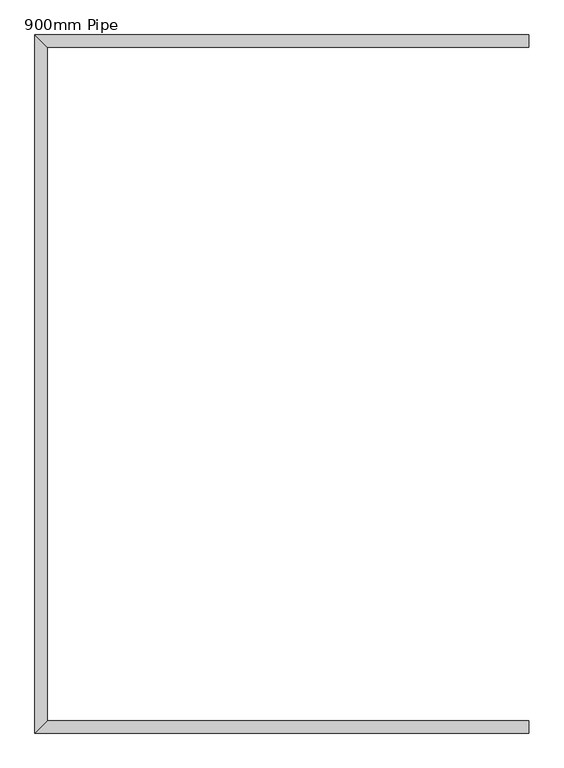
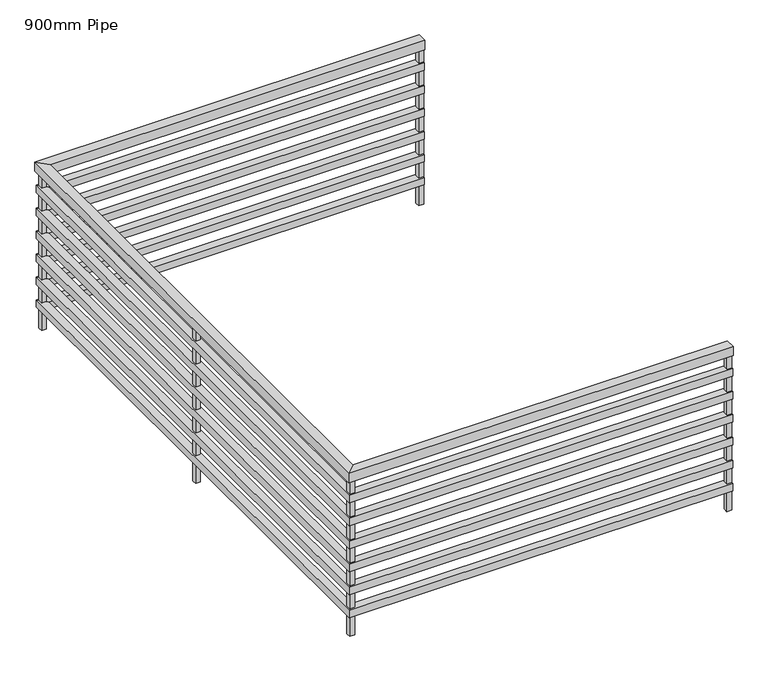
"""IFC4 building model written with IfcOpenShell, lengths in millimetres: railing geometry, 900mm Pipe."""

from ifc_helpers import new_model, si_unit, frame, origin, place, context, project, spatial, polyline, outline, extrude, faceted_brep, source, transform, mapped, element, save


def railing_900mm_pipe_e7dff587(model_context):
    return source(origin(), model_context, "Body", "SolidModel", [
        faceted_brep([(-10656.4352243, 7397.6290541, 12600.0), (-10656.4352243, 7397.6290541, 12550.0), (-10656.4352243, 7447.6290541, 12550.0), (-10656.4352243, 7447.6290541, 12600.0), (-12587.1962165, 7397.6290541, 12600.0), (-12587.1962165, 7397.6290541, 12550.0), (-12637.1962165, 7447.6290541, 12550.0), (-12637.1962165, 7447.6290541, 12600.0), (-12587.1962165, 4697.6290541, 12600.0), (-12587.1962165, 4697.6290541, 12550.0), (-12637.1962165, 4647.6290541, 12550.0), (-12637.1962165, 4647.6290541, 12600.0), (-10656.4352243, 4697.6290541, 12600.0), (-10656.4352243, 4647.6290541, 12600.0), (-10656.4352243, 4647.6290541, 12550.0), (-10656.4352243, 4697.6290541, 12550.0)], [[[0, 1, 2, 3]], [[1, 0, 4, 5]], [[2, 1, 5, 6]], [[3, 2, 6, 7]], [[0, 3, 7, 4]], [[5, 4, 8, 9]], [[6, 5, 9, 10]], [[7, 6, 10, 11]], [[4, 7, 11, 8]], [[12, 13, 14, 15]], [[9, 8, 12, 15]], [[10, 9, 15, 14]], [[11, 10, 14, 13]], [[8, 11, 13, 12]]]),
        faceted_brep([(-10656.4352243, 7402.6290541, 12475.0), (-10656.4352243, 7402.6290541, 12435.0), (-10656.4352243, 7442.6290541, 12435.0), (-10656.4352243, 7442.6290541, 12475.0), (-12592.1962165, 7402.6290541, 12475.0), (-12592.1962165, 7402.6290541, 12435.0), (-12632.1962165, 7442.6290541, 12435.0), (-12632.1962165, 7442.6290541, 12475.0), (-12592.1962165, 4692.6290541, 12475.0), (-12592.1962165, 4692.6290541, 12435.0), (-12632.1962165, 4652.6290541, 12435.0), (-12632.1962165, 4652.6290541, 12475.0), (-10656.4352243, 4692.6290541, 12475.0), (-10656.4352243, 4652.6290541, 12475.0), (-10656.4352243, 4652.6290541, 12435.0), (-10656.4352243, 4692.6290541, 12435.0)], [[[0, 1, 2, 3]], [[1, 0, 4, 5]], [[2, 1, 5, 6]], [[3, 2, 6, 7]], [[0, 3, 7, 4]], [[5, 4, 8, 9]], [[6, 5, 9, 10]], [[7, 6, 10, 11]], [[4, 7, 11, 8]], [[12, 13, 14, 15]], [[9, 8, 12, 15]], [[10, 9, 15, 14]], [[11, 10, 14, 13]], [[8, 11, 13, 12]]]),
        faceted_brep([(-10656.4352243, 7402.6290541, 12350.0), (-10656.4352243, 7402.6290541, 12310.0), (-10656.4352243, 7442.6290541, 12310.0), (-10656.4352243, 7442.6290541, 12350.0), (-12592.1962165, 7402.6290541, 12350.0), (-12592.1962165, 7402.6290541, 12310.0), (-12632.1962165, 7442.6290541, 12310.0), (-12632.1962165, 7442.6290541, 12350.0), (-12592.1962165, 4692.6290541, 12350.0), (-12592.1962165, 4692.6290541, 12310.0), (-12632.1962165, 4652.6290541, 12310.0), (-12632.1962165, 4652.6290541, 12350.0), (-10656.4352243, 4692.6290541, 12350.0), (-10656.4352243, 4652.6290541, 12350.0), (-10656.4352243, 4652.6290541, 12310.0), (-10656.4352243, 4692.6290541, 12310.0)], [[[0, 1, 2, 3]], [[1, 0, 4, 5]], [[2, 1, 5, 6]], [[3, 2, 6, 7]], [[0, 3, 7, 4]], [[5, 4, 8, 9]], [[6, 5, 9, 10]], [[7, 6, 10, 11]], [[4, 7, 11, 8]], [[12, 13, 14, 15]], [[9, 8, 12, 15]], [[10, 9, 15, 14]], [[11, 10, 14, 13]], [[8, 11, 13, 12]]]),
        faceted_brep([(-10656.4352243, 7402.6290541, 12225.0), (-10656.4352243, 7402.6290541, 12185.0), (-10656.4352243, 7442.6290541, 12185.0), (-10656.4352243, 7442.6290541, 12225.0), (-12592.1962165, 7402.6290541, 12225.0), (-12592.1962165, 7402.6290541, 12185.0), (-12632.1962165, 7442.6290541, 12185.0), (-12632.1962165, 7442.6290541, 12225.0), (-12592.1962165, 4692.6290541, 12225.0), (-12592.1962165, 4692.6290541, 12185.0), (-12632.1962165, 4652.6290541, 12185.0), (-12632.1962165, 4652.6290541, 12225.0), (-10656.4352243, 4692.6290541, 12225.0), (-10656.4352243, 4652.6290541, 12225.0), (-10656.4352243, 4652.6290541, 12185.0), (-10656.4352243, 4692.6290541, 12185.0)], [[[0, 1, 2, 3]], [[1, 0, 4, 5]], [[2, 1, 5, 6]], [[3, 2, 6, 7]], [[0, 3, 7, 4]], [[5, 4, 8, 9]], [[6, 5, 9, 10]], [[7, 6, 10, 11]], [[4, 7, 11, 8]], [[12, 13, 14, 15]], [[9, 8, 12, 15]], [[10, 9, 15, 14]], [[11, 10, 14, 13]], [[8, 11, 13, 12]]]),
        faceted_brep([(-10656.4352243, 7402.6290541, 12100.0), (-10656.4352243, 7402.6290541, 12060.0), (-10656.4352243, 7442.6290541, 12060.0), (-10656.4352243, 7442.6290541, 12100.0), (-12592.1962165, 7402.6290541, 12100.0), (-12592.1962165, 7402.6290541, 12060.0), (-12632.1962165, 7442.6290541, 12060.0), (-12632.1962165, 7442.6290541, 12100.0), (-12592.1962165, 4692.6290541, 12100.0), (-12592.1962165, 4692.6290541, 12060.0), (-12632.1962165, 4652.6290541, 12060.0), (-12632.1962165, 4652.6290541, 12100.0), (-10656.4352243, 4692.6290541, 12100.0), (-10656.4352243, 4652.6290541, 12100.0), (-10656.4352243, 4652.6290541, 12060.0), (-10656.4352243, 4692.6290541, 12060.0)], [[[0, 1, 2, 3]], [[1, 0, 4, 5]], [[2, 1, 5, 6]], [[3, 2, 6, 7]], [[0, 3, 7, 4]], [[5, 4, 8, 9]], [[6, 5, 9, 10]], [[7, 6, 10, 11]], [[4, 7, 11, 8]], [[12, 13, 14, 15]], [[9, 8, 12, 15]], [[10, 9, 15, 14]], [[11, 10, 14, 13]], [[8, 11, 13, 12]]]),
        faceted_brep([(-10656.4352243, 7402.6290541, 11975.0), (-10656.4352243, 7402.6290541, 11935.0), (-10656.4352243, 7442.6290541, 11935.0), (-10656.4352243, 7442.6290541, 11975.0), (-12592.1962165, 7402.6290541, 11975.0), (-12592.1962165, 7402.6290541, 11935.0), (-12632.1962165, 7442.6290541, 11935.0), (-12632.1962165, 7442.6290541, 11975.0), (-12592.1962165, 4692.6290541, 11975.0), (-12592.1962165, 4692.6290541, 11935.0), (-12632.1962165, 4652.6290541, 11935.0), (-12632.1962165, 4652.6290541, 11975.0), (-10656.4352243, 4692.6290541, 11975.0), (-10656.4352243, 4652.6290541, 11975.0), (-10656.4352243, 4652.6290541, 11935.0), (-10656.4352243, 4692.6290541, 11935.0)], [[[0, 1, 2, 3]], [[1, 0, 4, 5]], [[2, 1, 5, 6]], [[3, 2, 6, 7]], [[0, 3, 7, 4]], [[5, 4, 8, 9]], [[6, 5, 9, 10]], [[7, 6, 10, 11]], [[4, 7, 11, 8]], [[12, 13, 14, 15]], [[9, 8, 12, 15]], [[10, 9, 15, 14]], [[11, 10, 14, 13]], [[8, 11, 13, 12]]]),
        faceted_brep([(-10656.4352243, 7402.6290541, 11850.0), (-10656.4352243, 7402.6290541, 11810.0), (-10656.4352243, 7442.6290541, 11810.0), (-10656.4352243, 7442.6290541, 11850.0), (-12592.1962165, 7402.6290541, 11850.0), (-12592.1962165, 7402.6290541, 11810.0), (-12632.1962165, 7442.6290541, 11810.0), (-12632.1962165, 7442.6290541, 11850.0), (-12592.1962165, 4692.6290541, 11850.0), (-12592.1962165, 4692.6290541, 11810.0), (-12632.1962165, 4652.6290541, 11810.0), (-12632.1962165, 4652.6290541, 11850.0), (-10656.4352243, 4692.6290541, 11850.0), (-10656.4352243, 4652.6290541, 11850.0), (-10656.4352243, 4652.6290541, 11810.0), (-10656.4352243, 4692.6290541, 11810.0)], [[[0, 1, 2, 3]], [[1, 0, 4, 5]], [[2, 1, 5, 6]], [[3, 2, 6, 7]], [[0, 3, 7, 4]], [[5, 4, 8, 9]], [[6, 5, 9, 10]], [[7, 6, 10, 11]], [[4, 7, 11, 8]], [[12, 13, 14, 15]], [[9, 8, 12, 15]], [[10, 9, 15, 14]], [[11, 10, 14, 13]], [[8, 11, 13, 12]]]),
        extrude(outline(polyline([(-12624.6962165, 6060.1290541), (-12599.6962165, 6060.1290541), (-12599.6962165, 6035.1290541), (-12624.6962165, 6035.1290541), (-12624.6962165, 6060.1290541)])), frame((0.0, 0.0, 11700.0), z_axis=(0.0, 0.0, 1.0), x_axis=(1.0, 0.0, 0.0)), (0.0, 0.0, 1.0), 850.0),
        extrude(outline(polyline([(-12624.6962165, 4685.1290541), (-12599.6962165, 4685.1290541), (-12599.6962165, 4660.1290541), (-12624.6962165, 4660.1290541), (-12624.6962165, 4685.1290541)])), frame((0.0, 0.0, 11700.0), z_axis=(0.0, 0.0, 1.0), x_axis=(1.0, 0.0, 0.0)), (0.0, 0.0, 1.0), 850.0),
        extrude(outline(polyline([(-12599.6962165, 7435.1290541), (-12599.6962165, 7410.1290541), (-12624.6962165, 7410.1290541), (-12624.6962165, 7435.1290541), (-12599.6962165, 7435.1290541)])), frame((0.0, 0.0, 11700.0), z_axis=(0.0, 0.0, 1.0), x_axis=(1.0, 0.0, 0.0)), (0.0, 0.0, 1.0), 850.0),
        extrude(outline(polyline([(-10681.4352243, 4660.1290541), (-10681.4352243, 4685.1290541), (-10656.4352243, 4685.1290541), (-10656.4352243, 4660.1290541), (-10681.4352243, 4660.1290541)])), frame((0.0, 0.0, 11700.0), z_axis=(0.0, 0.0, 1.0), x_axis=(1.0, 0.0, 0.0)), (0.0, 0.0, 1.0), 850.0),
        extrude(outline(polyline([(-10656.4352243, 7435.1290541), (-10656.4352243, 7410.1290541), (-10681.4352243, 7410.1290541), (-10681.4352243, 7435.1290541), (-10656.4352243, 7435.1290541)])), frame((0.0, 0.0, 11700.0), z_axis=(0.0, 0.0, 1.0), x_axis=(1.0, 0.0, 0.0)), (0.0, 0.0, 1.0), 850.0),
    ])


if __name__ == "__main__":
    model = new_model("IFC4")
    model_context = context("Model", 3, world=origin())
    ifc_project = project(units=[si_unit("LENGTHUNIT", "METRE", prefix="MILLI")], contexts=[model_context])
    site = spatial("IfcSite", under=ifc_project)
    building = spatial("IfcBuilding", under=site)
    placement = place(None, origin())
    railing_900mm_pipe_shape = railing_900mm_pipe_e7dff587(model_context)
    element("IfcRailing", 1, ObjectType="900mm Pipe", at=placement, inside=building, context=model_context, shape_type="MappedRepresentation", body=[
        mapped(railing_900mm_pipe_shape, transform((0.0, 0.0, 0.0), x_axis=(1.0, 0.0, 0.0), y_axis=(0.0, 1.0, 0.0), z_axis=(0.0, 0.0, 1.0))),
    ])
    save(model, "model.ifc")
